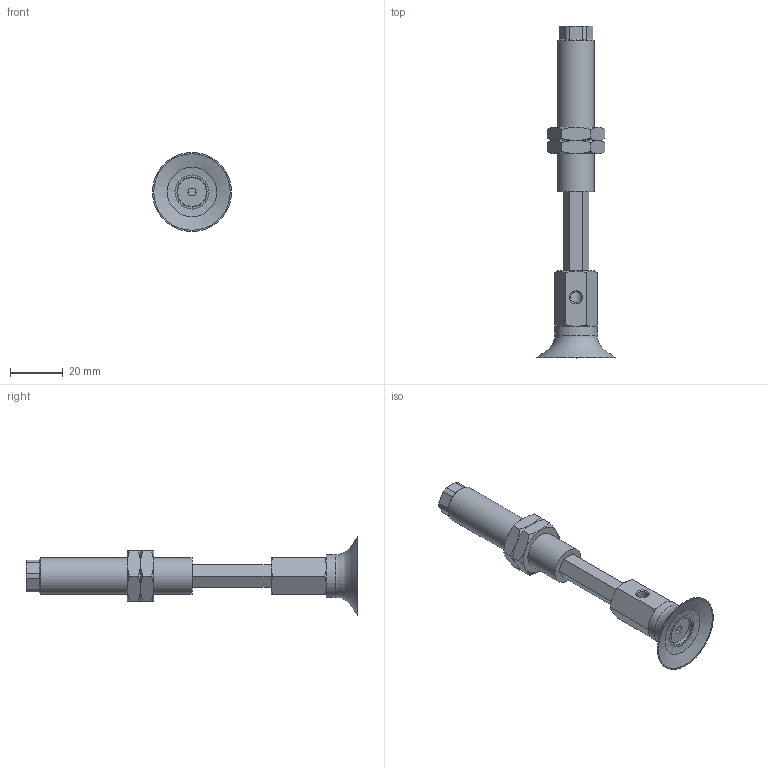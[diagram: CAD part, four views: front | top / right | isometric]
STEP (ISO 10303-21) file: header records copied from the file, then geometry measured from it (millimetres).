
FILE_DESCRIPTION(('STEP AP203'),'1');
FILE_NAME('.stp','2025-04-10T07:48:20',(' '),(' '),'Spatial InterOp 3D',' ',' ');
FILE_SCHEMA(('CONFIG_CONTROL_DESIGN'));
Length unit declared in the file: millimetre
Products named in the file (7): BNABPFYH-30-30-※; TN-PF-30-M6-NAPF; CONNECTOR-H-30-30; Nut-30-30-h; NAPFTH-30-30-FBODY; NAPFTH-30-30-MBODY; BPFG-30-※
Assembly tree (7 placements, depth 2):
  BNABPFYH-30-30-※
    TN-PF-30-M6-NAPF
    CONNECTOR-H-30-30
    Nut-30-30-h  x2
    NAPFTH-30-30-FBODY
    NAPFTH-30-30-MBODY
    BPFG-30-※
Bounding box: 30 x 126 x 30 mm (x, y, z)
Volume: 18526.1 mm3; surface area: 14364.6 mm2
Topology: 7 solids, 7 shells, 155 faces, 334 edges, 203 vertices
Faces by surface type: plane 78, cone 51, cylinder 20, torus 5, bspline 1
Full cylindrical faces by diameter (mm): 3 x2, 4.134 x2, 4.917 x1, 5 x1, 6 x2, 11 x2, 12.917 x2, 14 x1, 16 x1
Entity records: 4063 total; most frequent: CARTESIAN_POINT 986, DIRECTION 566, ORIENTED_EDGE 506, EDGE_CURVE 253, AXIS2_PLACEMENT_3D 225, EDGE_LOOP 184, VERTEX_POINT 173, FACE_OUTER_BOUND 151
